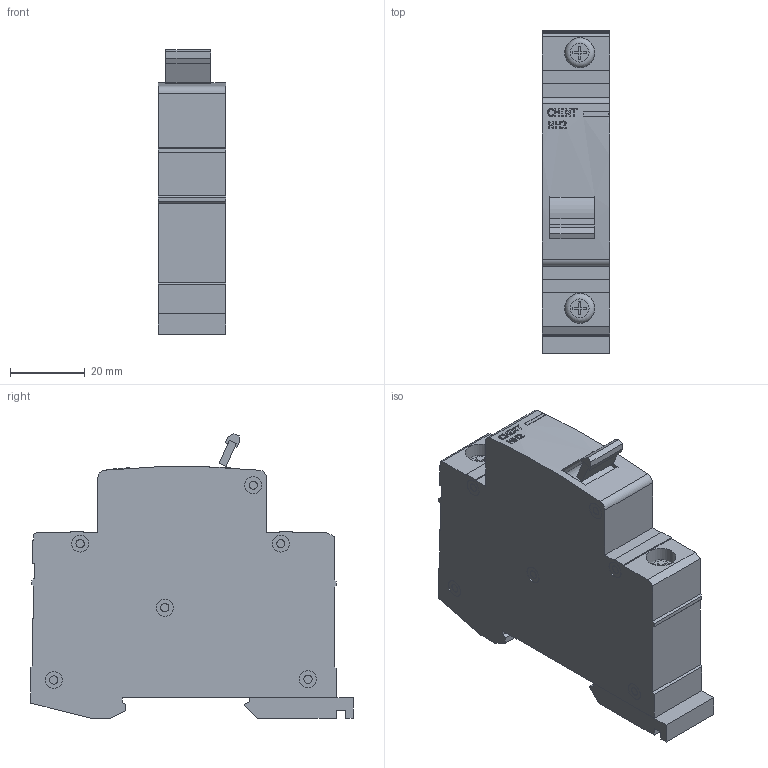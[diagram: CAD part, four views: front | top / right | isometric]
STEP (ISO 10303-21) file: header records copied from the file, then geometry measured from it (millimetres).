
FILE_DESCRIPTION(/* description */ (''),/* implementation_level */ '2;1');
FILE_NAME(/* name */ 'D:\CHINT\NH2\Нагр. выключатель NH2 1P 32A (CHINT).stp',/* time_stamp */ '2017-09-30T14:45:02+04:00',/* author */ ('RSagdiev'),/* organization */ (''),/* preprocessor_version */ 'ST-DEVELOPER v16.5',/* originating_system */ 'Autodesk Inventor 2017',/* authorisation */ '');
FILE_SCHEMA (('AUTOMOTIVE_DESIGN { 1 0 10303 214 3 1 1 }'));
Length unit declared in the file: millimetre
Products named in the file (1): Нагр. \X2\0432044B043A043B044E04470430
04420435043B044C\X0\ NH2 1P 32A (CHINT)
Bounding box: 18 x 86 x 76.01 mm (x, y, z)
Volume: 81495.1 mm3; surface area: 18546.3 mm2
Topology: 7 solids, 7 shells, 288 faces, 712 edges, 472 vertices
Faces by surface type: plane 215, cylinder 44, bspline 27, torus 2
Full cylindrical faces by diameter (mm): 2.111 x2, 2.171 x2, 2.212 x6, 4.524 x12, 8 x4, 13.756 x1
Entity records: 8827 total; most frequent: CARTESIAN_POINT 2059, ORIENTED_EDGE 1366, DIRECTION 1311, EDGE_CURVE 683, VERTEX_POINT 472, LINE 471, VECTOR 471, AXIS2_PLACEMENT_3D 420
